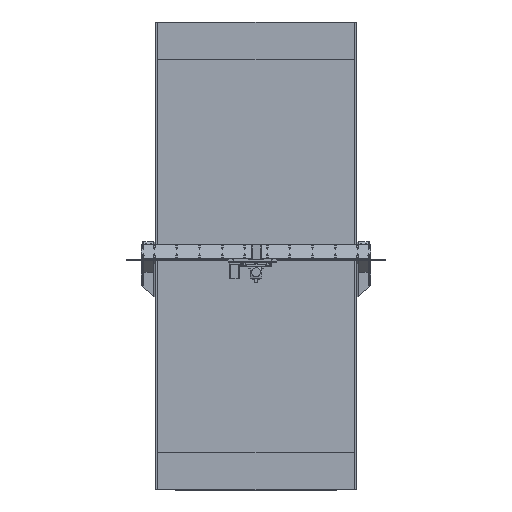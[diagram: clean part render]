
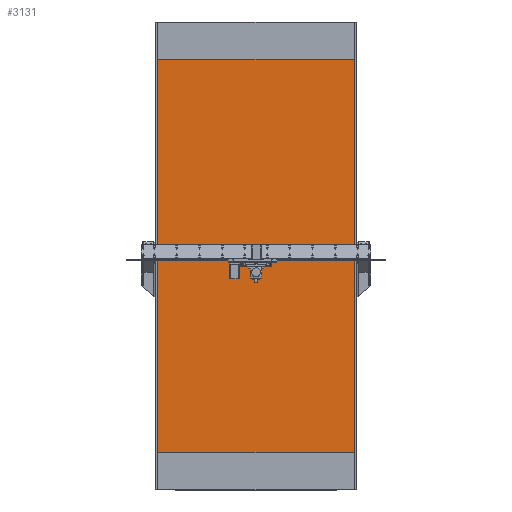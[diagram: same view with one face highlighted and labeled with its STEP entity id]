
A CAD part, top view. The second image highlights one B-rep face of the part: STEP entity #3131.
In plain terms, the highlighted planar face has unit normal (0, 0, 1).
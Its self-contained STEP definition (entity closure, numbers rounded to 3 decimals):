
#3131=ADVANCED_FACE('',(#6179),#53802,.T.);
#6179=FACE_OUTER_BOUND('',#9864,.T.);
#9864=EDGE_LOOP('',(#21567,#21568,#21569,#21570));
#21567=ORIENTED_EDGE('',*,*,#33646,.T.);
#21568=ORIENTED_EDGE('',*,*,#33649,.T.);
#21569=ORIENTED_EDGE('',*,*,#33648,.T.);
#21570=ORIENTED_EDGE('',*,*,#33647,.T.);
#33646=EDGE_CURVE('',#49193,#49196,#43676,.T.);
#33647=EDGE_CURVE('',#49194,#49193,#43677,.T.);
#33648=EDGE_CURVE('',#49195,#49194,#43678,.T.);
#33649=EDGE_CURVE('',#49196,#49195,#43679,.T.);
#43676=B_SPLINE_CURVE_WITH_KNOTS('',1,(#106322,#106323),.UNSPECIFIED.,.F.,
 .F.,(2,2),(0.,1600.),.UNSPECIFIED.);
#43677=B_SPLINE_CURVE_WITH_KNOTS('',1,(#106324,#106325),.UNSPECIFIED.,.F.,
 .F.,(2,2),(3327.,3454.),.UNSPECIFIED.);
#43678=B_SPLINE_CURVE_WITH_KNOTS('',1,(#106326,#106327),.UNSPECIFIED.,.F.,
 .F.,(2,2),(1727.,3327.),.UNSPECIFIED.);
#43679=B_SPLINE_CURVE_WITH_KNOTS('',1,(#106328,#106329),.UNSPECIFIED.,.F.,
 .F.,(2,2),(1600.,1727.),.UNSPECIFIED.);
#49193=VERTEX_POINT('',#106314);
#49194=VERTEX_POINT('',#106315);
#49195=VERTEX_POINT('',#106316);
#49196=VERTEX_POINT('',#106317);
#53802=PLANE('',#55333);
#55333=AXIS2_PLACEMENT_3D('',#106308,#56848,$);
#56848=DIRECTION('',(0.,0.,1.));
#106308=CARTESIAN_POINT('',(-610.,30.,-20.));
#106314=CARTESIAN_POINT('',(-610.,30.,-20.));
#106315=CARTESIAN_POINT('',(-610.,2470.,-20.));
#106316=CARTESIAN_POINT('',(610.,2470.,-20.));
#106317=CARTESIAN_POINT('',(610.,30.,-20.));
#106322=CARTESIAN_POINT('',(-610.,30.,-20.));
#106323=CARTESIAN_POINT('',(610.,30.,-20.));
#106324=CARTESIAN_POINT('',(-610.,2470.,-20.));
#106325=CARTESIAN_POINT('',(-610.,30.,-20.));
#106326=CARTESIAN_POINT('',(610.,2470.,-20.));
#106327=CARTESIAN_POINT('',(-610.,2470.,-20.));
#106328=CARTESIAN_POINT('',(610.,30.,-20.));
#106329=CARTESIAN_POINT('',(610.,2470.,-20.));
